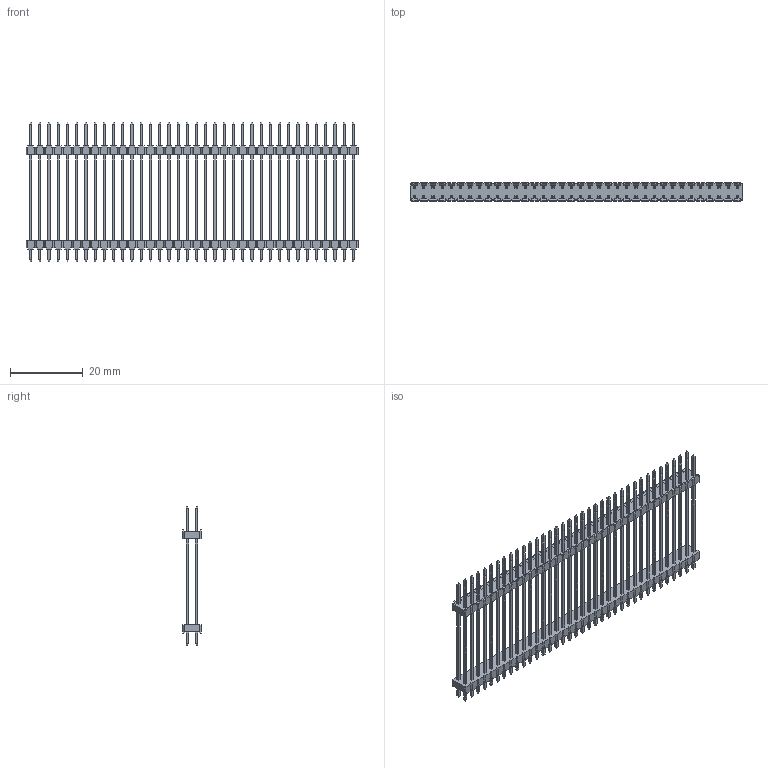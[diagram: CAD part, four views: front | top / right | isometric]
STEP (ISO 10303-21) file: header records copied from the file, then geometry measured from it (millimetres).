
FILE_DESCRIPTION(/* description */ (''),/* implementation_level */ '2;1');
FILE_NAME(/* name */ '961472-8041504-XX',/* time_stamp */ '2007-06-14T21:25:10+02:00',/* author */ (''),/* organization */ (''),/* preprocessor_version */ 'ST-DEVELOPER v9',/* originating_system */ 'UGS - NX 3.0',/* authorisation */ '');
FILE_SCHEMA (('AUTOMOTIVE_DESIGN { 1 0 10303 214 1 1 1 1 }'));
Products named in the file (1): 961472-8041504-XX
Bounding box: 91.44 x 5 x 38.4 mm (x, y, z)
Volume: 2839.9 mm3; surface area: 8997.5 mm2
Topology: 1 solids, 1 shells, 2748 faces, 7224 edges, 4624 vertices
Faces by surface type: plane 2748
Entity records: 82408 total; most frequent: CARTESIAN_POINT 14597, ORIENTED_EDGE 14448, DIRECTION 12722, EDGE_CURVE 7224, LINE 7224, VECTOR 7224, VERTEX_POINT 4624, EDGE_LOOP 3036
